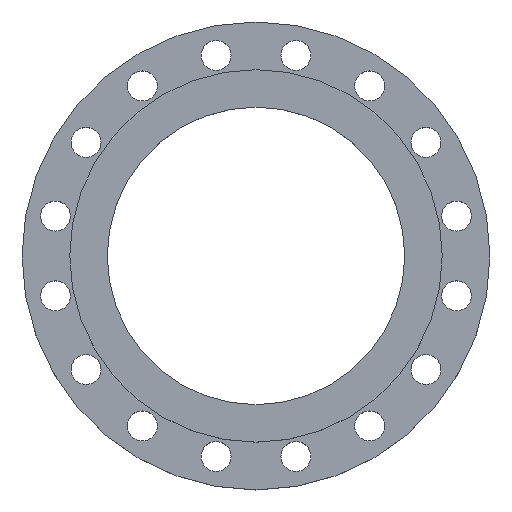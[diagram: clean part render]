
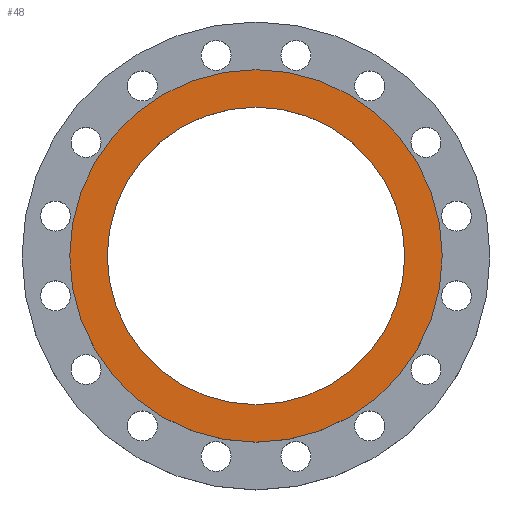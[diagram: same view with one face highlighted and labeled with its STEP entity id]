
A CAD part, top view. The second image highlights one B-rep face of the part: STEP entity #48.
In plain terms, the highlighted planar face has unit normal (0, 0, 1).
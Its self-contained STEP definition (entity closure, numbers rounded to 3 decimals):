
#48 = ADVANCED_FACE ( 'NONE', ( #79, #78 ), #76, .F. ) ;
#73 = DIRECTION ( 'NONE',  ( -1., 0., 0. ) ) ;
#74 = DIRECTION ( 'NONE',  ( 0., 0., -1. ) ) ;
#75 = CARTESIAN_POINT ( 'NONE',  ( 163.75, 0., 34. ) ) ;
#76 = PLANE ( 'NONE',  #724 ) ;
#78 = FACE_BOUND ( 'NONE', #1036, .T. ) ;
#79 = FACE_OUTER_BOUND ( 'NONE', #829, .T. ) ;
#144 = AXIS2_PLACEMENT_3D ( 'NONE', #1548, #1547, #1546 ) ;
#161 = ORIENTED_EDGE ( 'NONE', *, *, #502, .T. ) ;
#162 = ORIENTED_EDGE ( 'NONE', *, *, #812, .T. ) ;
#163 = ORIENTED_EDGE ( 'NONE', *, *, #316, .F. ) ;
#164 = ORIENTED_EDGE ( 'NONE', *, *, #702, .F. ) ;
#165 = VERTEX_POINT ( 'NONE', #1622 ) ;
#316 = EDGE_CURVE ( 'NONE', #836, #340, #1233, .T. ) ;
#340 = VERTEX_POINT ( 'NONE', #1506 ) ;
#407 = VERTEX_POINT ( 'NONE', #1435 ) ;
#502 = EDGE_CURVE ( 'NONE', #407, #165, #1370, .T. ) ;
#627 = CIRCLE ( 'NONE', #840, 205. ) ;
#702 = EDGE_CURVE ( 'NONE', #340, #836, #627, .T. ) ;
#724 = AXIS2_PLACEMENT_3D ( 'NONE', #75, #74, #73 ) ;
#753 = CIRCLE ( 'NONE', #903, 163.75 ) ;
#812 = EDGE_CURVE ( 'NONE', #165, #407, #753, .T. ) ;
#829 = EDGE_LOOP ( 'NONE', ( #164, #163 ) ) ;
#836 = VERTEX_POINT ( 'NONE', #1227 ) ;
#840 = AXIS2_PLACEMENT_3D ( 'NONE', #1329, #1327, #1326 ) ;
#903 = AXIS2_PLACEMENT_3D ( 'NONE', #1239, #1238, #1237 ) ;
#1036 = EDGE_LOOP ( 'NONE', ( #162, #161 ) ) ;
#1227 = CARTESIAN_POINT ( 'NONE',  ( 205., 0., 34. ) ) ;
#1233 = CIRCLE ( 'NONE', #144, 205. ) ;
#1237 = DIRECTION ( 'NONE',  ( -1., 0., 0. ) ) ;
#1238 = DIRECTION ( 'NONE',  ( 0., 0., -1. ) ) ;
#1239 = CARTESIAN_POINT ( 'NONE',  ( 0., 0., 34. ) ) ;
#1326 = DIRECTION ( 'NONE',  ( -1., 0., 0. ) ) ;
#1327 = DIRECTION ( 'NONE',  ( 0., 0., -1. ) ) ;
#1329 = CARTESIAN_POINT ( 'NONE',  ( 0., 0., 34. ) ) ;
#1346 = AXIS2_PLACEMENT_3D ( 'NONE', #1409, #1408, #1406 ) ;
#1370 = CIRCLE ( 'NONE', #1346, 163.75 ) ;
#1406 = DIRECTION ( 'NONE',  ( -1., 0., 0. ) ) ;
#1408 = DIRECTION ( 'NONE',  ( 0., 0., -1. ) ) ;
#1409 = CARTESIAN_POINT ( 'NONE',  ( 0., 0., 34. ) ) ;
#1435 = CARTESIAN_POINT ( 'NONE',  ( 163.75, 0., 34. ) ) ;
#1506 = CARTESIAN_POINT ( 'NONE',  ( -205., 0., 34. ) ) ;
#1546 = DIRECTION ( 'NONE',  ( -1., 0., 0. ) ) ;
#1547 = DIRECTION ( 'NONE',  ( 0., 0., -1. ) ) ;
#1548 = CARTESIAN_POINT ( 'NONE',  ( 0., 0., 34. ) ) ;
#1622 = CARTESIAN_POINT ( 'NONE',  ( -163.75, 0., 34. ) ) ;
